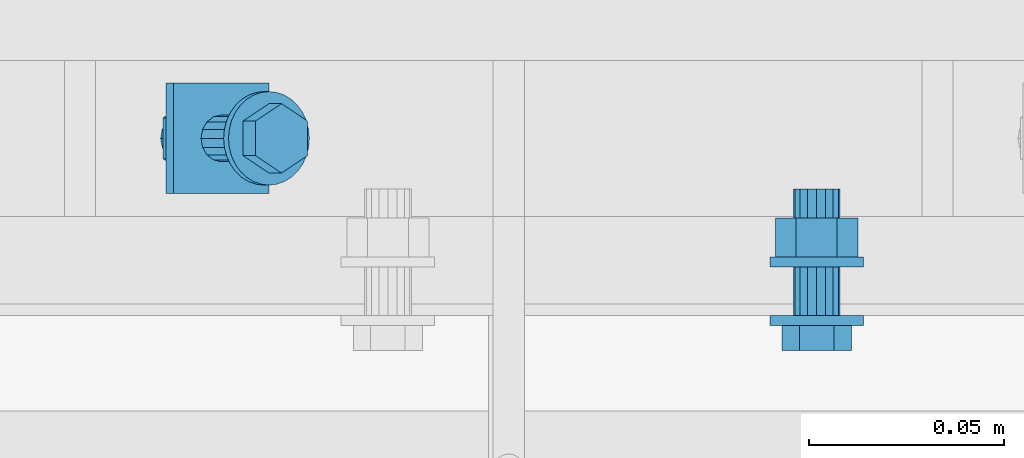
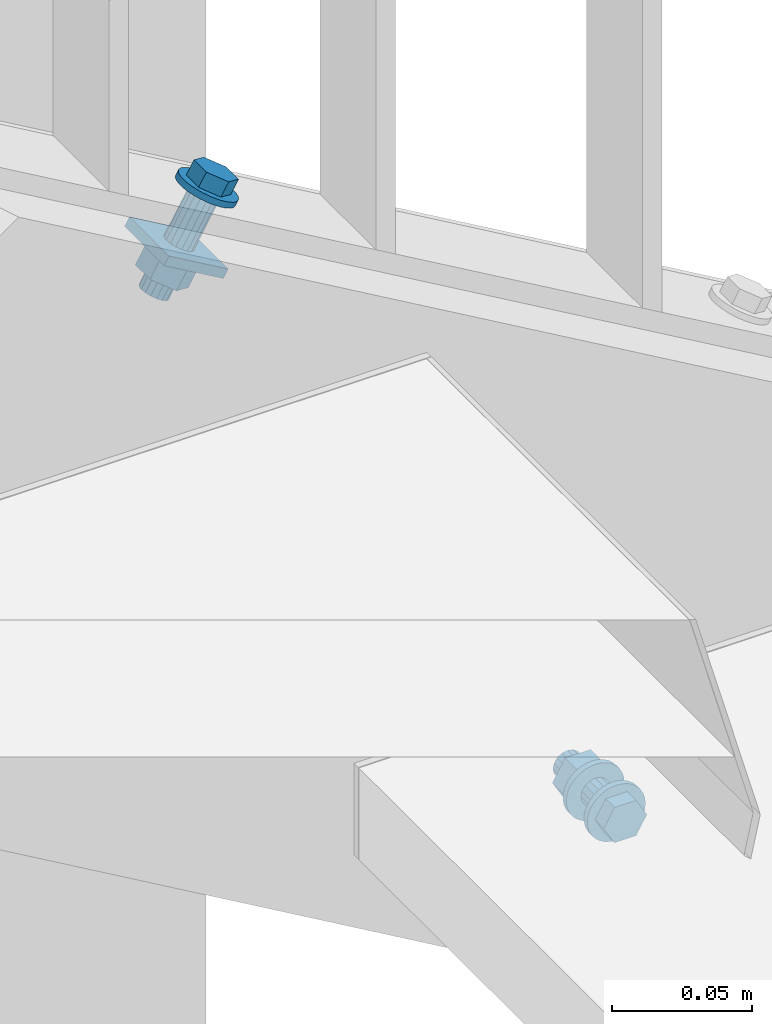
# One storey, part 120 of 145: 2 mechanical fasteners.
"""IFC2X3 building model written with IfcOpenShell, lengths in millimetres."""

from ifc_helpers import new_model, entity, si_unit, converted_unit, origin_with_axes, place, context, project, spatial, faceted_brep, element, save


model = new_model("IFC2X3")

# Units and contexts
model_context = context("Model", 3, precision=1e-09, world=origin_with_axes())
ifc_project = project(units=[si_unit("LENGTHUNIT", "METRE", prefix="MILLI"), si_unit("AREAUNIT", "SQUARE_METRE"), si_unit("VOLUMEUNIT", "CUBIC_METRE"), converted_unit("PLANEANGLEUNIT", "DEGREE", entity("IfcPlaneAngleMeasure", 0.01745329), si_unit("PLANEANGLEUNIT", "RADIAN"), dimensions=[0, 0, 0, 0, 0, 0, 0])], contexts=[model_context])

# Site, building, storey
site_placement = place(None, origin_with_axes())
site = spatial("IfcSite", under=ifc_project, at=site_placement, Name="BZ1 Grund- und Mittelschule 85716 Unterschlei?heim", CompositionType="ELEMENT")
building_placement = place(site_placement, origin_with_axes())
building = spatial("IfcBuilding", under=site, at=building_placement, Name="Struktur 1", CompositionType="ELEMENT")
storey_placement = place(building_placement, origin_with_axes())
storey = spatial("IfcBuildingStorey", under=building, at=storey_placement, Name="Default Storey", CompositionType="ELEMENT", Elevation=0.0)

# Mechanical fasteners
mechanical_fastener_1_placement = place(None, origin_with_axes())
element("IfcMechanicalFastener", 1, at=mechanical_fastener_1_placement, inside=storey, ObjectType="-", NominalDiameter=12.0, NominalLength=35.0, context=model_context, shape_type="Brep", body=[
    faceted_brep([(18832.1419848, -275.502, 2171.181818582), (18832.1419848, -273.002, 2171.181818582), (18834.483068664, -273.002, 2171.412395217), (18834.483068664, -275.502, 2171.412395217), (18836.734185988, -273.002, 2172.095264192), (18836.734185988, -275.502, 2172.095264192), (18838.808827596, -273.002, 2173.204183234), (18838.808827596, -275.502, 2173.204183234), (18840.627266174, -273.002, 2174.696537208), (18840.627266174, -275.502, 2174.696537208), (18842.119620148, -273.002, 2176.514975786), (18842.119620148, -275.502, 2176.514975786), (18843.22853919, -273.002, 2178.589617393), (18843.22853919, -275.502, 2178.589617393), (18843.911408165, -273.002, 2180.840734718), (18843.911408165, -275.502, 2180.840734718), (18844.1419848, -273.002, 2183.181818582), (18844.1419848, -275.502, 2183.181818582), (18843.911408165, -273.002, 2185.522902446), (18843.911408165, -275.502, 2185.522902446), (18843.22853919, -273.002, 2187.77401977), (18843.22853919, -275.502, 2187.77401977), (18842.119620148, -273.002, 2189.848661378), (18842.119620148, -275.502, 2189.848661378), (18840.627266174, -273.002, 2191.667099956), (18840.627266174, -275.502, 2191.667099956), (18838.808827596, -273.002, 2193.159453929), (18838.808827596, -275.502, 2193.159453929), (18836.734185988, -273.002, 2194.268372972), (18836.734185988, -275.502, 2194.268372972), (18834.483068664, -273.002, 2194.951241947), (18834.483068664, -275.502, 2194.951241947), (18832.1419848, -273.002, 2195.181818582), (18832.1419848, -275.502, 2195.181818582), (18829.800900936, -273.002, 2194.951241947), (18829.800900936, -275.502, 2194.951241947), (18827.549783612, -273.002, 2194.268372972), (18827.549783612, -275.502, 2194.268372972), (18825.475142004, -273.002, 2193.159453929), (18825.475142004, -275.502, 2193.159453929), (18823.656703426, -273.002, 2191.667099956), (18823.656703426, -275.502, 2191.667099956), (18822.164349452, -273.002, 2189.848661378), (18822.164349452, -275.502, 2189.848661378), (18821.05543041, -273.002, 2187.77401977), (18821.05543041, -275.502, 2187.77401977), (18820.372561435, -273.002, 2185.522902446), (18820.372561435, -275.502, 2185.522902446), (18820.1419848, -273.002, 2183.181818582), (18820.1419848, -275.502, 2183.181818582), (18820.372561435, -273.002, 2180.840734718), (18820.372561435, -275.502, 2180.840734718), (18821.05543041, -273.002, 2178.589617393), (18821.05543041, -275.502, 2178.589617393), (18822.164349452, -273.002, 2176.514975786), (18822.164349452, -275.502, 2176.514975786), (18823.656703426, -273.002, 2174.696537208), (18823.656703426, -275.502, 2174.696537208), (18825.475142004, -273.002, 2173.204183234), (18825.475142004, -275.502, 2173.204183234), (18827.549783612, -273.002, 2172.095264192), (18827.549783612, -275.502, 2172.095264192), (18829.800900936, -273.002, 2171.412395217), (18829.800900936, -275.502, 2171.412395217)], [[[0, 1, 2, 3]], [[3, 2, 4, 5]], [[5, 4, 6, 7]], [[7, 6, 8, 9]], [[9, 8, 10, 11]], [[11, 10, 12, 13]], [[13, 12, 14, 15]], [[15, 14, 16, 17]], [[17, 16, 18, 19]], [[19, 18, 20, 21]], [[21, 20, 22, 23]], [[23, 22, 24, 25]], [[25, 24, 26, 27]], [[27, 26, 28, 29]], [[29, 28, 30, 31]], [[31, 30, 32, 33]], [[33, 32, 34, 35]], [[35, 34, 36, 37]], [[37, 36, 38, 39]], [[39, 38, 40, 41]], [[41, 40, 42, 43]], [[43, 42, 44, 45]], [[45, 44, 46, 47]], [[47, 46, 48, 49]], [[49, 48, 50, 51]], [[51, 50, 52, 53]], [[53, 52, 54, 55]], [[55, 54, 56, 57]], [[57, 56, 58, 59]], [[59, 58, 60, 61]], [[61, 60, 62, 63]], [[63, 62, 1, 0]], [[0, 3, 5, 7, 9, 11, 13, 15, 17, 19, 21, 23, 25, 27, 29, 31, 33, 35, 37, 39, 41, 43, 45, 47, 49, 51, 53, 55, 57, 59, 61, 63]], [[1, 62, 60, 58, 56, 54, 52, 50, 48, 46, 44, 42, 40, 38, 36, 34, 32, 30, 28, 26, 24, 22, 20, 18, 16, 14, 12, 10, 8, 6, 4, 2]]]),
    faceted_brep([(18836.5844848, -275.502, 2190.876454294), (18836.5844848, -281.902, 2190.876454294), (18841.0269848, -281.902, 2183.181818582), (18841.0269848, -275.502, 2183.181818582), (18836.5844848, -281.902, 2175.487182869), (18836.5844848, -275.502, 2175.487182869), (18827.6994848, -281.902, 2175.487182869), (18827.6994848, -275.502, 2175.487182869), (18823.2569848, -281.902, 2183.181818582), (18823.2569848, -275.502, 2183.181818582), (18827.6994848, -281.902, 2190.876454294), (18827.6994848, -275.502, 2190.876454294)], [[[0, 1, 2, 3]], [[3, 2, 4, 5]], [[5, 4, 6, 7]], [[7, 6, 8, 9]], [[9, 8, 10, 11]], [[11, 10, 1, 0]], [[4, 2, 1, 10, 8, 6]], [[0, 3, 5, 7, 9, 11]]]),
    faceted_brep([(18832.1419848, -273.002, 2177.181818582), (18832.1419848, -260.502, 2177.181818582), (18834.438085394, -260.502, 2177.638541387), (18834.438085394, -273.002, 2177.638541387), (18836.384625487, -260.502, 2178.939177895), (18836.384625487, -273.002, 2178.939177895), (18837.685261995, -260.502, 2180.885717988), (18837.685261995, -273.002, 2180.885717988), (18838.1419848, -260.502, 2183.181818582), (18838.1419848, -273.002, 2183.181818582), (18837.685261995, -260.502, 2185.477919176), (18837.685261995, -273.002, 2185.477919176), (18836.384625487, -260.502, 2187.424459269), (18836.384625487, -273.002, 2187.424459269), (18834.438085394, -260.502, 2188.725095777), (18834.438085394, -273.002, 2188.725095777), (18832.1419848, -260.502, 2189.181818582), (18832.1419848, -273.002, 2189.181818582), (18829.845884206, -260.502, 2188.725095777), (18829.845884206, -273.002, 2188.725095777), (18827.899344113, -260.502, 2187.424459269), (18827.899344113, -273.002, 2187.424459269), (18826.598707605, -260.502, 2185.477919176), (18826.598707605, -273.002, 2185.477919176), (18826.1419848, -260.502, 2183.181818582), (18826.1419848, -273.002, 2183.181818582), (18826.598707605, -260.502, 2180.885717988), (18826.598707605, -273.002, 2180.885717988), (18827.899344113, -260.502, 2178.939177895), (18827.899344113, -273.002, 2178.939177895), (18829.845884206, -260.502, 2177.638541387), (18829.845884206, -273.002, 2177.638541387)], [[[0, 1, 2, 3]], [[3, 2, 4, 5]], [[5, 4, 6, 7]], [[7, 6, 8, 9]], [[9, 8, 10, 11]], [[11, 10, 12, 13]], [[13, 12, 14, 15]], [[15, 14, 16, 17]], [[17, 16, 18, 19]], [[19, 18, 20, 21]], [[21, 20, 22, 23]], [[23, 22, 24, 25]], [[25, 24, 26, 27]], [[27, 26, 28, 29]], [[29, 28, 30, 31]], [[31, 30, 1, 0]], [[0, 3, 5, 7, 9, 11, 13, 15, 17, 19, 21, 23, 25, 27, 29, 31]], [[1, 30, 28, 26, 24, 22, 20, 18, 16, 14, 12, 10, 8, 6, 4, 2]]]),
    faceted_brep([(18832.1419848, -260.502, 2171.181818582), (18832.1419848, -258.002, 2171.181818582), (18834.483068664, -258.002, 2171.412395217), (18834.483068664, -260.502, 2171.412395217), (18836.734185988, -258.002, 2172.095264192), (18836.734185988, -260.502, 2172.095264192), (18838.808827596, -258.002, 2173.204183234), (18838.808827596, -260.502, 2173.204183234), (18840.627266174, -258.002, 2174.696537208), (18840.627266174, -260.502, 2174.696537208), (18842.119620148, -258.002, 2176.514975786), (18842.119620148, -260.502, 2176.514975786), (18843.22853919, -258.002, 2178.589617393), (18843.22853919, -260.502, 2178.589617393), (18843.911408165, -258.002, 2180.840734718), (18843.911408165, -260.502, 2180.840734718), (18844.1419848, -258.002, 2183.181818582), (18844.1419848, -260.502, 2183.181818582), (18843.911408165, -258.002, 2185.522902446), (18843.911408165, -260.502, 2185.522902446), (18843.22853919, -258.002, 2187.77401977), (18843.22853919, -260.502, 2187.77401977), (18842.119620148, -258.002, 2189.848661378), (18842.119620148, -260.502, 2189.848661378), (18840.627266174, -258.002, 2191.667099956), (18840.627266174, -260.502, 2191.667099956), (18838.808827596, -258.002, 2193.159453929), (18838.808827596, -260.502, 2193.159453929), (18836.734185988, -258.002, 2194.268372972), (18836.734185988, -260.502, 2194.268372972), (18834.483068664, -258.002, 2194.951241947), (18834.483068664, -260.502, 2194.951241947), (18832.1419848, -258.002, 2195.181818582), (18832.1419848, -260.502, 2195.181818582), (18829.800900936, -258.002, 2194.951241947), (18829.800900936, -260.502, 2194.951241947), (18827.549783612, -258.002, 2194.268372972), (18827.549783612, -260.502, 2194.268372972), (18825.475142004, -258.002, 2193.159453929), (18825.475142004, -260.502, 2193.159453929), (18823.656703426, -258.002, 2191.667099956), (18823.656703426, -260.502, 2191.667099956), (18822.164349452, -258.002, 2189.848661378), (18822.164349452, -260.502, 2189.848661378), (18821.05543041, -258.002, 2187.77401977), (18821.05543041, -260.502, 2187.77401977), (18820.372561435, -258.002, 2185.522902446), (18820.372561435, -260.502, 2185.522902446), (18820.1419848, -258.002, 2183.181818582), (18820.1419848, -260.502, 2183.181818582), (18820.372561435, -258.002, 2180.840734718), (18820.372561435, -260.502, 2180.840734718), (18821.05543041, -258.002, 2178.589617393), (18821.05543041, -260.502, 2178.589617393), (18822.164349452, -258.002, 2176.514975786), (18822.164349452, -260.502, 2176.514975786), (18823.656703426, -258.002, 2174.696537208), (18823.656703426, -260.502, 2174.696537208), (18825.475142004, -258.002, 2173.204183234), (18825.475142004, -260.502, 2173.204183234), (18827.549783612, -258.002, 2172.095264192), (18827.549783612, -260.502, 2172.095264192), (18829.800900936, -258.002, 2171.412395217), (18829.800900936, -260.502, 2171.412395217)], [[[0, 1, 2, 3]], [[3, 2, 4, 5]], [[5, 4, 6, 7]], [[7, 6, 8, 9]], [[9, 8, 10, 11]], [[11, 10, 12, 13]], [[13, 12, 14, 15]], [[15, 14, 16, 17]], [[17, 16, 18, 19]], [[19, 18, 20, 21]], [[21, 20, 22, 23]], [[23, 22, 24, 25]], [[25, 24, 26, 27]], [[27, 26, 28, 29]], [[29, 28, 30, 31]], [[31, 30, 32, 33]], [[33, 32, 34, 35]], [[35, 34, 36, 37]], [[37, 36, 38, 39]], [[39, 38, 40, 41]], [[41, 40, 42, 43]], [[43, 42, 44, 45]], [[45, 44, 46, 47]], [[47, 46, 48, 49]], [[49, 48, 50, 51]], [[51, 50, 52, 53]], [[53, 52, 54, 55]], [[55, 54, 56, 57]], [[57, 56, 58, 59]], [[59, 58, 60, 61]], [[61, 60, 62, 63]], [[63, 62, 1, 0]], [[0, 3, 5, 7, 9, 11, 13, 15, 17, 19, 21, 23, 25, 27, 29, 31, 33, 35, 37, 39, 41, 43, 45, 47, 49, 51, 53, 55, 57, 59, 61, 63]], [[1, 62, 60, 58, 56, 54, 52, 50, 48, 46, 44, 42, 40, 38, 36, 34, 32, 30, 28, 26, 24, 22, 20, 18, 16, 14, 12, 10, 8, 6, 4, 2]]]),
    faceted_brep([(18837.4169848, -248.002, 2192.318386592), (18837.4169848, -258.002, 2192.318386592), (18842.6919848, -258.002, 2183.181818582), (18842.6919848, -248.002, 2183.181818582), (18837.4169848, -258.002, 2174.045250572), (18837.4169848, -248.002, 2174.045250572), (18826.8669848, -258.002, 2174.045250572), (18826.8669848, -248.002, 2174.045250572), (18821.5919848, -258.002, 2183.181818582), (18821.5919848, -248.002, 2183.181818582), (18826.8669848, -258.002, 2192.318386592), (18826.8669848, -248.002, 2192.318386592)], [[[0, 1, 2, 3]], [[3, 2, 4, 5]], [[5, 4, 6, 7]], [[7, 6, 8, 9]], [[9, 8, 10, 11]], [[11, 10, 1, 0]], [[4, 2, 1, 10, 8, 6]], [[0, 3, 5, 7, 9, 11]]]),
    faceted_brep([(18832.1419848, -248.002, 2177.181818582), (18832.1419848, -240.502, 2177.181818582), (18834.438085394, -240.502, 2177.638541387), (18834.438085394, -248.002, 2177.638541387), (18836.384625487, -240.502, 2178.939177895), (18836.384625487, -248.002, 2178.939177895), (18837.685261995, -240.502, 2180.885717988), (18837.685261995, -248.002, 2180.885717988), (18838.1419848, -240.502, 2183.181818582), (18838.1419848, -248.002, 2183.181818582), (18837.685261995, -240.502, 2185.477919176), (18837.685261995, -248.002, 2185.477919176), (18836.384625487, -240.502, 2187.424459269), (18836.384625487, -248.002, 2187.424459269), (18834.438085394, -240.502, 2188.725095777), (18834.438085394, -248.002, 2188.725095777), (18832.1419848, -240.502, 2189.181818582), (18832.1419848, -248.002, 2189.181818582), (18829.845884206, -240.502, 2188.725095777), (18829.845884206, -248.002, 2188.725095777), (18827.899344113, -240.502, 2187.424459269), (18827.899344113, -248.002, 2187.424459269), (18826.598707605, -240.502, 2185.477919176), (18826.598707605, -248.002, 2185.477919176), (18826.1419848, -240.502, 2183.181818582), (18826.1419848, -248.002, 2183.181818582), (18826.598707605, -240.502, 2180.885717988), (18826.598707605, -248.002, 2180.885717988), (18827.899344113, -240.502, 2178.939177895), (18827.899344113, -248.002, 2178.939177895), (18829.845884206, -240.502, 2177.638541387), (18829.845884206, -248.002, 2177.638541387)], [[[0, 1, 2, 3]], [[3, 2, 4, 5]], [[5, 4, 6, 7]], [[7, 6, 8, 9]], [[9, 8, 10, 11]], [[11, 10, 12, 13]], [[13, 12, 14, 15]], [[15, 14, 16, 17]], [[17, 16, 18, 19]], [[19, 18, 20, 21]], [[21, 20, 22, 23]], [[23, 22, 24, 25]], [[25, 24, 26, 27]], [[27, 26, 28, 29]], [[29, 28, 30, 31]], [[31, 30, 1, 0]], [[0, 3, 5, 7, 9, 11, 13, 15, 17, 19, 21, 23, 25, 27, 29, 31]], [[1, 30, 28, 26, 24, 22, 20, 18, 16, 14, 12, 10, 8, 6, 4, 2]]]),
])
mechanical_fastener_2_placement = place(None, origin_with_axes())
element("IfcMechanicalFastener", 2, at=mechanical_fastener_2_placement, inside=storey, ObjectType="-", NominalDiameter=12.0, NominalLength=45.0, context=model_context, shape_type="Brep", body=[
    faceted_brep([(18701.993608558, -227.502, 2471.033447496), (18700.736880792, -227.502, 2468.872282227), (18700.537555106, -225.160916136, 2468.988191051), (18701.794282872, -225.160916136, 2471.14935632), (18699.947238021, -222.909798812, 2469.331463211), (18701.203965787, -222.909798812, 2471.492628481), (18698.988615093, -220.835157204, 2469.888906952), (18700.245342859, -220.835157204, 2472.050072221), (18697.698525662, -219.016718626, 2470.639100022), (18698.955253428, -219.016718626, 2472.800265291), (18696.126547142, -217.524364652, 2471.553212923), (18697.383274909, -217.524364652, 2473.714378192), (18694.333089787, -216.41544561, 2472.596116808), (18695.589817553, -216.41544561, 2474.757282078), (18692.387075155, -215.732576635, 2473.727733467), (18693.643802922, -215.732576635, 2475.888898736), (18690.363287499, -215.502, 2474.904575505), (18691.620015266, -215.502, 2477.065740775), (18688.339499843, -215.732576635, 2476.081417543), (18689.59622761, -215.732576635, 2478.242582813), (18686.393485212, -216.41544561, 2477.213034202), (18687.650212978, -216.41544561, 2479.374199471), (18684.600027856, -217.524364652, 2478.255938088), (18685.856755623, -217.524364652, 2480.417103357), (18683.028049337, -219.016718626, 2479.170050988), (18684.284777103, -219.016718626, 2481.331216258), (18681.737959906, -220.835157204, 2479.920244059), (18682.994687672, -220.835157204, 2482.081409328), (18680.779336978, -222.909798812, 2480.477687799), (18682.036064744, -222.909798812, 2482.638853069), (18680.189019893, -225.160916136, 2480.82095996), (18681.445747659, -225.160916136, 2482.982125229), (18679.989694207, -227.502, 2480.936868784), (18681.246421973, -227.502, 2483.098034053), (18680.189019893, -229.843083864, 2480.82095996), (18681.445747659, -229.843083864, 2482.982125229), (18680.779336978, -232.094201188, 2480.477687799), (18682.036064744, -232.094201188, 2482.638853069), (18681.737959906, -234.168842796, 2479.920244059), (18682.994687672, -234.168842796, 2482.081409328), (18683.028049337, -235.987281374, 2479.170050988), (18684.284777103, -235.987281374, 2481.331216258), (18684.600027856, -237.479635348, 2478.255938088), (18685.856755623, -237.479635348, 2480.417103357), (18686.393485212, -238.58855439, 2477.213034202), (18687.650212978, -238.58855439, 2479.374199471), (18688.339499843, -239.271423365, 2476.081417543), (18689.59622761, -239.271423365, 2478.242582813), (18690.363287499, -239.502, 2474.904575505), (18691.620015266, -239.502, 2477.065740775), (18692.387075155, -239.271423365, 2473.727733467), (18693.643802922, -239.271423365, 2475.888898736), (18694.333089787, -238.58855439, 2472.596116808), (18695.589817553, -238.58855439, 2474.757282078), (18696.126547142, -237.479635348, 2471.553212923), (18697.383274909, -237.479635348, 2473.714378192), (18697.698525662, -235.987281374, 2470.639100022), (18698.955253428, -235.987281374, 2472.800265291), (18698.988615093, -234.168842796, 2469.888906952), (18700.245342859, -234.168842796, 2472.050072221), (18699.947238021, -232.094201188, 2469.331463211), (18701.203965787, -232.094201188, 2471.492628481), (18700.537555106, -229.843083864, 2468.988191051), (18701.794282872, -229.843083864, 2471.14935632)], [[[0, 1, 2, 3]], [[3, 2, 4, 5]], [[5, 4, 6, 7]], [[7, 6, 8, 9]], [[9, 8, 10, 11]], [[11, 10, 12, 13]], [[13, 12, 14, 15]], [[15, 14, 16, 17]], [[17, 16, 18, 19]], [[19, 18, 20, 21]], [[21, 20, 22, 23]], [[23, 22, 24, 25]], [[25, 24, 26, 27]], [[27, 26, 28, 29]], [[29, 28, 30, 31]], [[31, 30, 32, 33]], [[33, 32, 34, 35]], [[35, 34, 36, 37]], [[37, 36, 38, 39]], [[39, 38, 40, 41]], [[41, 40, 42, 43]], [[43, 42, 44, 45]], [[45, 44, 46, 47]], [[47, 46, 48, 49]], [[49, 48, 50, 51]], [[51, 50, 52, 53]], [[53, 52, 54, 55]], [[55, 54, 56, 57]], [[57, 56, 58, 59]], [[59, 58, 60, 61]], [[61, 60, 62, 63]], [[63, 62, 1, 0]], [[0, 3, 5, 7, 9, 11, 13, 15, 17, 19, 21, 23, 25, 27, 29, 31, 33, 35, 37, 39, 41, 43, 45, 47, 49, 51, 53, 55, 57, 59, 61, 63]], [[1, 62, 60, 58, 56, 54, 52, 50, 48, 46, 44, 42, 40, 38, 36, 34, 32, 30, 28, 26, 24, 22, 20, 18, 16, 14, 12, 10, 8, 6, 4, 2]]]),
    faceted_brep([(18684.968263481, -223.0595, 2480.933765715), (18688.185486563, -223.0595, 2486.466348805), (18694.837238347, -218.617, 2482.598323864), (18691.620015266, -218.617, 2477.065740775), (18701.488990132, -223.0595, 2478.730298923), (18698.271767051, -223.0595, 2473.197715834), (18701.488990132, -231.9445, 2478.730298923), (18698.271767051, -231.9445, 2473.197715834), (18694.837238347, -236.387, 2482.598323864), (18691.620015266, -236.387, 2477.065740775), (18688.185486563, -231.9445, 2486.466348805), (18684.968263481, -231.9445, 2480.933765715)], [[[0, 1, 2, 3]], [[3, 2, 4, 5]], [[5, 4, 6, 7]], [[7, 6, 8, 9]], [[9, 8, 10, 11]], [[11, 10, 1, 0]], [[4, 2, 1, 10, 8, 6]], [[0, 3, 5, 7, 9, 11]]]),
    faceted_brep([(18695.550084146, -227.502, 2471.888428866), (18684.569292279, -227.502, 2453.005018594), (18684.174470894, -225.205899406, 2453.234609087), (18695.15526276, -225.205899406, 2472.118019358), (18683.050114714, -223.259359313, 2453.888427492), (18694.03090658, -223.259359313, 2472.771837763), (18681.367396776, -221.958722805, 2454.866935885), (18692.348188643, -221.958722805, 2473.750346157), (18679.382495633, -221.502, 2456.021165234), (18690.363287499, -221.502, 2474.904575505), (18677.397594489, -221.958722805, 2457.175394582), (18688.378386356, -221.958722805, 2476.058804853), (18675.714876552, -223.259359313, 2458.153902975), (18686.695668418, -223.259359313, 2477.037313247), (18674.590520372, -225.205899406, 2458.807721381), (18685.571312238, -225.205899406, 2477.691131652), (18674.195698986, -227.502, 2459.037311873), (18685.176490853, -227.502, 2477.920722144), (18674.590520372, -229.798100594, 2458.807721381), (18685.571312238, -229.798100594, 2477.691131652), (18675.714876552, -231.744640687, 2458.153902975), (18686.695668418, -231.744640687, 2477.037313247), (18677.397594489, -233.045277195, 2457.175394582), (18688.378386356, -233.045277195, 2476.058804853), (18679.382495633, -233.502, 2456.021165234), (18690.363287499, -233.502, 2474.904575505), (18681.367396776, -233.045277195, 2454.866935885), (18692.348188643, -233.045277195, 2473.750346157), (18683.050114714, -231.744640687, 2453.888427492), (18694.03090658, -231.744640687, 2472.771837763), (18684.174470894, -229.798100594, 2453.234609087), (18695.15526276, -229.798100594, 2472.118019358)], [[[0, 1, 2, 3]], [[3, 2, 4, 5]], [[5, 4, 6, 7]], [[7, 6, 8, 9]], [[9, 8, 10, 11]], [[11, 10, 12, 13]], [[13, 12, 14, 15]], [[15, 14, 16, 17]], [[17, 16, 18, 19]], [[19, 18, 20, 21]], [[21, 20, 22, 23]], [[23, 22, 24, 25]], [[25, 24, 26, 27]], [[27, 26, 28, 29]], [[29, 28, 30, 31]], [[31, 30, 1, 0]], [[0, 3, 5, 7, 9, 11, 13, 15, 17, 19, 21, 23, 25, 27, 29, 31]], [[1, 30, 28, 26, 24, 22, 20, 18, 16, 14, 12, 10, 8, 6, 4, 2]]]),
    faceted_brep([(18665.146334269, -213.359864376, 2459.672426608), (18667.157098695, -213.359864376, 2463.130291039), (18691.60789257, -213.359864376, 2448.912039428), (18689.597128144, -213.359864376, 2445.454174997), (18691.60789257, -241.644135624, 2448.912039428), (18689.597128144, -241.644135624, 2445.454174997), (18667.157098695, -241.644135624, 2463.130291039), (18665.146334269, -241.644135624, 2459.672426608)], [[[0, 1, 2, 3]], [[3, 2, 4, 5]], [[5, 4, 6, 7]], [[7, 6, 1, 0]], [[4, 2, 1, 6]], [[0, 3, 5, 7]]]),
    faceted_brep([(18664.446566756, -222.227, 2448.511511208), (18669.473477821, -222.227, 2457.156172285), (18677.371731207, -216.952, 2452.563300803), (18672.344820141, -216.952, 2443.918639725), (18685.269984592, -222.227, 2447.97042932), (18680.243073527, -222.227, 2439.325768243), (18685.269984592, -232.777, 2447.97042932), (18680.243073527, -232.777, 2439.325768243), (18677.371731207, -238.052, 2452.563300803), (18672.344820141, -238.052, 2443.918639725), (18669.473477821, -232.777, 2457.156172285), (18664.446566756, -232.777, 2448.511511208)], [[[0, 1, 2, 3]], [[3, 2, 4, 5]], [[5, 4, 6, 7]], [[7, 6, 8, 9]], [[9, 8, 10, 11]], [[11, 10, 1, 0]], [[4, 2, 1, 10, 8, 6]], [[0, 3, 5, 7, 9, 11]]]),
    faceted_brep([(18677.531616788, -227.502, 2440.902493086), (18674.185712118, -227.502, 2435.148619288), (18673.790890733, -225.205899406, 2435.37820978), (18677.136795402, -225.205899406, 2441.132083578), (18672.666534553, -223.259359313, 2436.032028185), (18676.012439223, -223.259359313, 2441.785901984), (18670.983816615, -221.958722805, 2437.010536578), (18674.329721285, -221.958722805, 2442.764410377), (18668.998915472, -221.502, 2438.164765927), (18672.344820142, -221.502, 2443.918639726), (18667.014014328, -221.958722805, 2439.318995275), (18670.359918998, -221.958722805, 2445.072869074), (18665.33129639, -223.259359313, 2440.297503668), (18668.67720106, -223.259359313, 2446.051377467), (18664.206940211, -225.205899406, 2440.951322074), (18667.552844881, -225.205899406, 2446.705195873), (18663.812118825, -227.502, 2441.180912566), (18667.158023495, -227.502, 2446.934786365), (18664.206940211, -229.798100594, 2440.951322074), (18667.552844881, -229.798100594, 2446.705195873), (18665.33129639, -231.744640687, 2440.297503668), (18668.67720106, -231.744640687, 2446.051377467), (18667.014014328, -233.045277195, 2439.318995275), (18670.359918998, -233.045277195, 2445.072869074), (18668.998915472, -233.502, 2438.164765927), (18672.344820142, -233.502, 2443.918639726), (18670.983816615, -233.045277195, 2437.010536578), (18674.329721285, -233.045277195, 2442.764410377), (18672.666534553, -231.744640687, 2436.032028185), (18676.012439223, -231.744640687, 2441.785901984), (18673.790890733, -229.798100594, 2435.37820978), (18677.136795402, -229.798100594, 2441.132083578)], [[[0, 1, 2, 3]], [[3, 2, 4, 5]], [[5, 4, 6, 7]], [[7, 6, 8, 9]], [[9, 8, 10, 11]], [[11, 10, 12, 13]], [[13, 12, 14, 15]], [[15, 14, 16, 17]], [[17, 16, 18, 19]], [[19, 18, 20, 21]], [[21, 20, 22, 23]], [[23, 22, 24, 25]], [[25, 24, 26, 27]], [[27, 26, 28, 29]], [[29, 28, 30, 31]], [[31, 30, 1, 0]], [[0, 3, 5, 7, 9, 11, 13, 15, 17, 19, 21, 23, 25, 27, 29, 31]], [[1, 30, 28, 26, 24, 22, 20, 18, 16, 14, 12, 10, 8, 6, 4, 2]]]),
])

save(model, "model.ifc")
